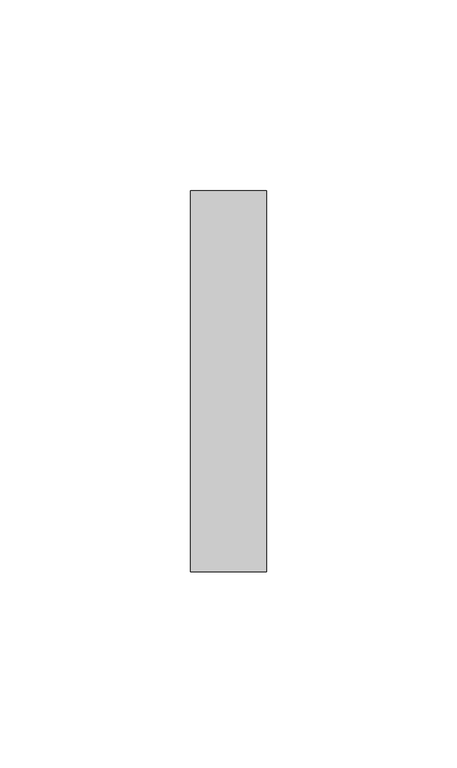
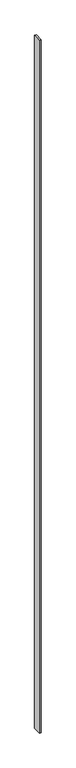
"""IFC4 building model written with IfcOpenShell, lengths in millimetres: plate geometry, システム パネルなし : なし."""

import ifcopenshell
import ifcopenshell.guid

model = None  # the IFC model being written
_history = None  # IfcOwnerHistory: only IFC2X3 demands one
_inside = {}  # id of a spatial element -> (the spatial element, [elements in it])
_under = {}  # id of a project, library or spatial element -> (it, [spatial elements below it])
_declared = {}  # id of a project -> (the project, [libraries it declares])
_typed = {}  # id of a type object -> (the type object, [elements of that type])
_made_of = {}  # id of a material, layer set ... -> (it, [elements and type objects made of it])


def new_model(schema):
    """Start an empty IFC model of exactly this schema.

    Asked for "IFC4X3", IfcOpenShell would pick the latest addendum, in which some entities
    have other attributes; the version numbers below select the first issue.
    IFC2X3 requires an IfcOwnerHistory on every rooted entity: one is made here for all.
    """
    global model, _history
    if schema == "IFC4X3":
        model = ifcopenshell.file(schema_version=(4, 3, 0, 0))
    else:
        model = ifcopenshell.file(schema=schema)
    _inside.clear()
    _under.clear()
    _declared.clear()
    _typed.clear()
    _made_of.clear()
    _history = None
    if model.schema == "IFC2X3":
        org = make("IfcOrganization", Name="unknown")
        user = make(
            "IfcPersonAndOrganization",
            ThePerson=make("IfcPerson", FamilyName="unknown"),
            TheOrganization=org,
        )
        app = make(
            "IfcApplication",
            ApplicationDeveloper=org,
            Version="unknown",
            ApplicationFullName="unknown",
            ApplicationIdentifier="unknown",
        )
        _history = make(
            "IfcOwnerHistory",
            OwningUser=user,
            OwningApplication=app,
            ChangeAction="ADDED",
            CreationDate=0,
        )
    return model


def make(cls, **values):
    """One entity of the class cls with the attributes given. An attribute that is None is left unset."""
    return model.create_entity(
        cls, **{name: value for name, value in values.items() if value is not None}
    )


def rooted(cls, **values):
    """An entity with a GlobalId (a new one), such as an element, a storey or a relation."""
    return make(cls, GlobalId=ifcopenshell.guid.new(), OwnerHistory=_history, **values)


def si_unit(unit_type, name, prefix=None):
    """IfcSIUnit, for example si_unit("LENGTHUNIT", "METRE", prefix="MILLI")."""
    return make("IfcSIUnit", UnitType=unit_type, Prefix=prefix, Name=name)


def assignment(units):
    """IfcUnitAssignment: the units of a project."""
    return None if units is None else make("IfcUnitAssignment", Units=units)


def point(xyz):
    """IfcCartesianPoint."""
    return None if xyz is None else make("IfcCartesianPoint", Coordinates=xyz)


def direction(xyz):
    """IfcDirection."""
    return None if xyz is None else make("IfcDirection", DirectionRatios=xyz)


def frame(location, z_axis=None, x_axis=None):
    """IfcAxis2Placement3D, a coordinate frame: its origin and axes. An axis left out is left unset."""
    return make(
        "IfcAxis2Placement3D",
        Location=point(location),
        Axis=direction(z_axis),
        RefDirection=direction(x_axis),
    )


def origin():
    """The frame at (0, 0, 0) with its axes left unset."""
    return frame((0.0, 0.0, 0.0))


def origin_with_axes():
    """The frame at (0, 0, 0) with the z axis (0, 0, 1) and the x axis (1, 0, 0) written out."""
    return frame((0.0, 0.0, 0.0), z_axis=(0.0, 0.0, 1.0), x_axis=(1.0, 0.0, 0.0))


def place(relative_to, where):
    """IfcLocalPlacement: puts the frame where relative to a parent placement (None: the world)."""
    return make(
        "IfcLocalPlacement", PlacementRelTo=relative_to, RelativePlacement=where
    )


def context(
    kind, dimensions, precision=None, world=None, true_north=None, identifier=None
):
    """IfcGeometricRepresentationContext, for example the 3D "Model" context."""
    return make(
        "IfcGeometricRepresentationContext",
        ContextIdentifier=identifier,
        ContextType=kind,
        CoordinateSpaceDimension=dimensions,
        Precision=precision,
        WorldCoordinateSystem=world,
        TrueNorth=true_north,
    )


def project(units=None, contexts=None):
    """IfcProject with its units and contexts."""
    return rooted(
        "IfcProject",
        Name="project",
        RepresentationContexts=contexts,
        UnitsInContext=assignment(units),
    )


def spatial(cls, under=None, at=None, **own):
    """A site, building, storey or space (cls), placed at a placement, below another one or the project."""
    s = rooted(cls, ObjectPlacement=at, **own)
    if under is not None:
        _under.setdefault(under.id(), (under, []))[1].append(s)
    return s


def polyline(points):
    """IfcPolyline through the points."""
    return make("IfcPolyline", Points=[point(p) for p in points])


def outline(outer, holes=None, kind="AREA"):
    """IfcArbitraryClosedProfileDef: a profile drawn as a closed curve; with holes, ...WithVoids."""
    if holes is None:
        return make("IfcArbitraryClosedProfileDef", ProfileType=kind, OuterCurve=outer)
    return make(
        "IfcArbitraryProfileDefWithVoids",
        ProfileType=kind,
        OuterCurve=outer,
        InnerCurves=holes,
    )


def extrude(swept, where, along, depth):
    """IfcExtrudedAreaSolid: the profile swept, set in the frame where, extruded along a direction by depth."""
    return make(
        "IfcExtrudedAreaSolid",
        SweptArea=swept,
        Position=where,
        ExtrudedDirection=direction(along),
        Depth=depth,
    )


def shape(context_of_items, identifier, shape_type, items):
    """IfcShapeRepresentation: the items that make up one representation, for example the "Body"."""
    return make(
        "IfcShapeRepresentation",
        ContextOfItems=context_of_items,
        RepresentationIdentifier=identifier,
        RepresentationType=shape_type,
        Items=items,
    )


def source(mapping_origin, context_of_items, identifier, shape_type, items):
    """IfcRepresentationMap: a shape defined once, which mapped items show again and again."""
    return make(
        "IfcRepresentationMap",
        MappingOrigin=mapping_origin,
        MappedRepresentation=shape(context_of_items, identifier, shape_type, items),
    )


def transform(
    local_origin,
    x_axis=None,
    y_axis=None,
    z_axis=None,
    scale=None,
    scale2=None,
    scale3=None,
    uniform=True,
):
    """IfcCartesianTransformationOperator3D, or its non-uniform kind. x_axis, y_axis, z_axis: its Axis1, 2, 3."""
    if uniform:
        return make(
            "IfcCartesianTransformationOperator3D",
            Axis1=direction(x_axis),
            Axis2=direction(y_axis),
            LocalOrigin=point(local_origin),
            Scale=scale,
            Axis3=direction(z_axis),
        )
    return make(
        "IfcCartesianTransformationOperator3DnonUniform",
        Axis1=direction(x_axis),
        Axis2=direction(y_axis),
        LocalOrigin=point(local_origin),
        Scale=scale,
        Axis3=direction(z_axis),
        Scale2=scale2,
        Scale3=scale3,
    )


def mapped(mapping_source, mapping_target):
    """IfcMappedItem: shows the shape of a source again, moved by a transform."""
    return make(
        "IfcMappedItem", MappingSource=mapping_source, MappingTarget=mapping_target
    )


def made_of(thing, what):
    """Note that an element or type object is made of a material, layer set ...; save() writes the relation."""
    if what is not None:
        _made_of.setdefault(what.id(), (what, []))[1].append(thing)
    return thing


def element(
    cls,
    number,
    at=None,
    inside=None,
    cuts=None,
    type_object=None,
    material=None,
    context=None,
    identifier="Body",
    shape_type=None,
    held_by="IfcProductDefinitionShape",
    body=None,
    shapes=None,
    **own,
):
    """One element of the class cls, such as IfcWall. Its Tag is "e" and its number.

    at: its placement. inside: the storey or other place that contains it. cuts: it is an
    opening in that element (IfcRelVoidsElement). A single representation is given by context,
    identifier, shape_type and body (its items); several are given by shapes. held_by: the class
    of the entity that holds the representations. save() writes the other relations.
    """
    e = rooted(cls, Tag="e%d" % number, ObjectPlacement=at, **own)
    if body is not None:
        shapes = [shape(context, identifier, shape_type, body)]
    if shapes is not None:
        e.Representation = make(held_by, Representations=shapes)
    if inside is not None:
        _inside.setdefault(inside.id(), (inside, []))[1].append(e)
    if cuts is not None:
        rooted(
            "IfcRelVoidsElement", RelatingBuildingElement=cuts, RelatedOpeningElement=e
        )
    if type_object is not None:
        _typed.setdefault(type_object.id(), (type_object, []))[1].append(e)
    return made_of(e, material)


def aggregate(whole, parts):
    """IfcRelAggregates: a whole, such as a stair, and the parts it consists of."""
    return rooted("IfcRelAggregates", RelatingObject=whole, RelatedObjects=parts)


def save(model, path):
    """Write the relations noted so far, then the file.

    IfcRelAggregates (storeys below a building ...), IfcRelContainedInSpatialStructure (elements
    in a storey), IfcRelDefinesByType, IfcRelAssociatesMaterial and IfcRelDeclares: one each for
    every whole, place, type object, material and project.
    """
    for whole, parts in _under.values():
        aggregate(whole, parts)
    for where, things in _inside.values():
        rooted(
            "IfcRelContainedInSpatialStructure",
            RelatedElements=things,
            RelatingStructure=where,
        )
    for kind, things in _typed.values():
        rooted("IfcRelDefinesByType", RelatedObjects=things, RelatingType=kind)
    for what, things in _made_of.values():
        rooted("IfcRelAssociatesMaterial", RelatedObjects=things, RelatingMaterial=what)
    for by, libraries in _declared.values():
        rooted("IfcRelDeclares", RelatingContext=by, RelatedDefinitions=libraries)
    model.write(path)


def plate_ebc2b1f9(model_context):
    return source(origin(), model_context, "Body", "SweptSolid", [
        extrude(outline(polyline([(10.0, -50.0), (-10.0, -50.0), (-10.0, 50.0), (10.0, 50.0), (10.0, -50.0)])), origin_with_axes(), (0.0, 0.0, 1.0), 8902.0),
    ])


if __name__ == "__main__":
    model = new_model("IFC4")
    model_context = context("Model", 3, world=origin())
    ifc_project = project(units=[si_unit("LENGTHUNIT", "METRE", prefix="MILLI")], contexts=[model_context])
    site = spatial("IfcSite", under=ifc_project)
    building = spatial("IfcBuilding", under=site)
    placement = place(None, origin())
    plate_shape = plate_ebc2b1f9(model_context)
    element("IfcPlate", 1, ObjectType="システム パネルなし : なし", at=placement, inside=building, context=model_context, shape_type="MappedRepresentation", body=[
        mapped(plate_shape, transform((0.0, 0.0, 0.0), x_axis=(1.0, 0.0, 0.0), y_axis=(0.0, 1.0, 0.0), z_axis=(0.0, 0.0, 1.0))),
    ])
    save(model, "model.ifc")
